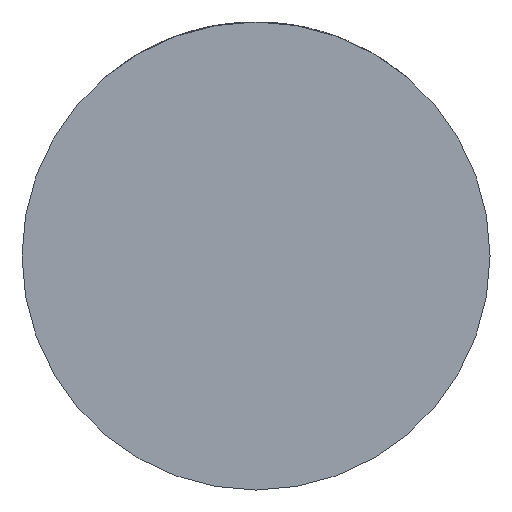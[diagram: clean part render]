
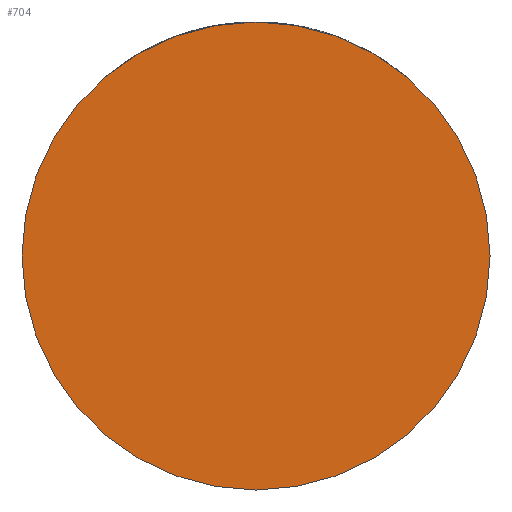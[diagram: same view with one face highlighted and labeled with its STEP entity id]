
A CAD part, front view. The second image highlights one B-rep face of the part: STEP entity #704.
In plain terms, the highlighted planar face has unit normal (0, -1, 0).
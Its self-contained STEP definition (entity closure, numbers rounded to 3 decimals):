
#6 = CARTESIAN_POINT ( 'NONE',  ( 0., -28., 0. ) ) ;
#26 = DIRECTION ( 'NONE',  ( 1., 0., 0. ) ) ;
#140 = CARTESIAN_POINT ( 'NONE',  ( -32., -28., 0. ) ) ;
#149 = EDGE_CURVE ( 'NONE', #844, #3437, #550, .T. ) ;
#398 = PLANE ( 'NONE',  #3980 ) ;
#550 = CIRCLE ( 'NONE', #3878, 32. ) ;
#678 = ORIENTED_EDGE ( 'NONE', *, *, #149, .T. ) ;
#683 = AXIS2_PLACEMENT_3D ( 'NONE', #1970, #3351, #2310 ) ;
#704 = ADVANCED_FACE ( 'NONE', ( #3126 ), #398, .T. ) ;
#844 = VERTEX_POINT ( 'NONE', #3524 ) ;
#1895 = DIRECTION ( 'NONE',  ( 0., -1., 0. ) ) ;
#1970 = CARTESIAN_POINT ( 'NONE',  ( 0., -28., 0. ) ) ;
#2191 = EDGE_CURVE ( 'NONE', #3437, #844, #4362, .T. ) ;
#2207 = CARTESIAN_POINT ( 'NONE',  ( 0., -28., 0. ) ) ;
#2310 = DIRECTION ( 'NONE',  ( 1., 0., 0. ) ) ;
#2837 = EDGE_LOOP ( 'NONE', ( #4294, #678 ) ) ;
#3126 = FACE_OUTER_BOUND ( 'NONE', #2837, .T. ) ;
#3298 = DIRECTION ( 'NONE',  ( 1., 0., 0. ) ) ;
#3351 = DIRECTION ( 'NONE',  ( 0., -1., 0. ) ) ;
#3437 = VERTEX_POINT ( 'NONE', #140 ) ;
#3524 = CARTESIAN_POINT ( 'NONE',  ( 32., -28., 0. ) ) ;
#3825 = DIRECTION ( 'NONE',  ( 0., -1., 0. ) ) ;
#3878 = AXIS2_PLACEMENT_3D ( 'NONE', #2207, #1895, #3298 ) ;
#3980 = AXIS2_PLACEMENT_3D ( 'NONE', #6, #3825, #26 ) ;
#4294 = ORIENTED_EDGE ( 'NONE', *, *, #2191, .T. ) ;
#4362 = CIRCLE ( 'NONE', #683, 32. ) ;
